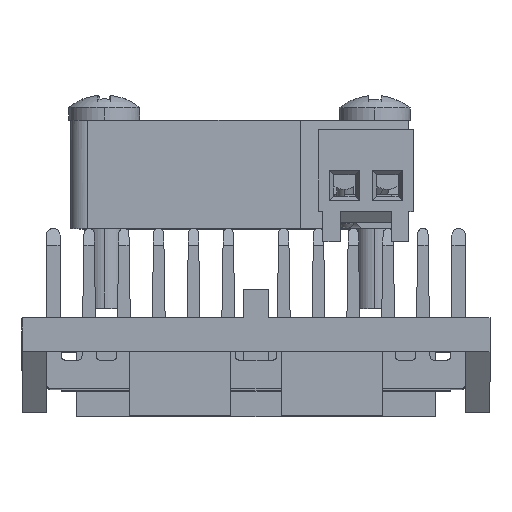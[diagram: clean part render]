
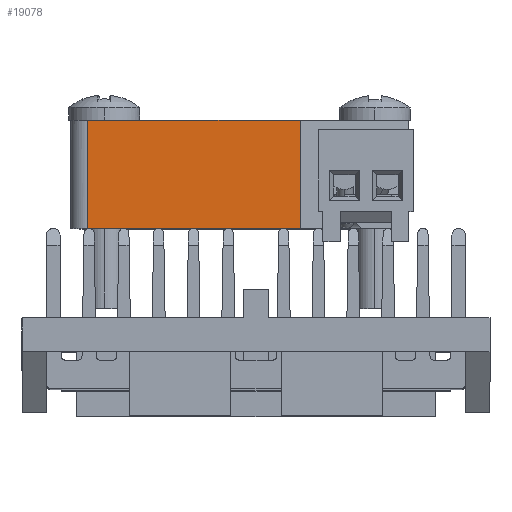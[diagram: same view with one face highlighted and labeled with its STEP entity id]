
A CAD part, top view. The second image highlights one B-rep face of the part: STEP entity #19078.
In plain terms, the highlighted planar face has unit normal (0, 0, 1).
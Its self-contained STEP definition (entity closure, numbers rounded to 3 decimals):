
#148 = CARTESIAN_POINT ( 'NONE',  ( 12.752, 12.356, 10.509 ) ) ;
#3006 = AXIS2_PLACEMENT_3D ( 'NONE', #148, #6590, #13047 ) ;
#3217 = PLANE ( 'NONE',  #3006 ) ;
#3529 = VECTOR ( 'NONE', #17069, 1000. ) ;
#3986 = LINE ( 'NONE', #12241, #11413 ) ;
#4545 = ORIENTED_EDGE ( 'NONE', *, *, #16602, .F. ) ;
#5529 = VERTEX_POINT ( 'NONE', #20722 ) ;
#5851 = EDGE_CURVE ( 'NONE', #20381, #5529, #7358, .T. ) ;
#6131 = DIRECTION ( 'NONE',  ( 0., 1., 0. ) ) ;
#6467 = DIRECTION ( 'NONE',  ( 0., -1., 0. ) ) ;
#6590 = DIRECTION ( 'NONE',  ( 0., 0., -1. ) ) ;
#7358 = LINE ( 'NONE', #15479, #3529 ) ;
#7363 = ORIENTED_EDGE ( 'NONE', *, *, #7796, .F. ) ;
#7796 = EDGE_CURVE ( 'NONE', #5529, #19532, #17107, .T. ) ;
#7947 = EDGE_CURVE ( 'NONE', #19532, #8699, #3986, .T. ) ;
#8699 = VERTEX_POINT ( 'NONE', #11378 ) ;
#10846 = CARTESIAN_POINT ( 'NONE',  ( -6.248, 12.256, 10.509 ) ) ;
#11378 = CARTESIAN_POINT ( 'NONE',  ( 6.352, 12.256, 10.509 ) ) ;
#11413 = VECTOR ( 'NONE', #15383, 1000. ) ;
#11694 = ORIENTED_EDGE ( 'NONE', *, *, #7947, .F. ) ;
#12241 = CARTESIAN_POINT ( 'NONE',  ( 12.752, 12.256, 10.509 ) ) ;
#12726 = ORIENTED_EDGE ( 'NONE', *, *, #5851, .F. ) ;
#12866 = EDGE_LOOP ( 'NONE', ( #11694, #7363, #12726, #4545 ) ) ;
#13047 = DIRECTION ( 'NONE',  ( 0., -1., 0. ) ) ;
#13136 = CARTESIAN_POINT ( 'NONE',  ( 6.352, 12.356, 10.509 ) ) ;
#13207 = CARTESIAN_POINT ( 'NONE',  ( 6.352, 5.856, 10.509 ) ) ;
#13443 = VECTOR ( 'NONE', #6131, 1000. ) ;
#15383 = DIRECTION ( 'NONE',  ( 1., 0., 0. ) ) ;
#15479 = CARTESIAN_POINT ( 'NONE',  ( 2.752, 5.856, 10.509 ) ) ;
#16602 = EDGE_CURVE ( 'NONE', #8699, #20381, #19590, .T. ) ;
#16898 = VECTOR ( 'NONE', #6467, 1000. ) ;
#17069 = DIRECTION ( 'NONE',  ( -1., 0., 0. ) ) ;
#17107 = LINE ( 'NONE', #19145, #13443 ) ;
#17582 = FACE_OUTER_BOUND ( 'NONE', #12866, .T. ) ;
#19078 = ADVANCED_FACE ( 'NONE', ( #17582 ), #3217, .F. ) ;
#19145 = CARTESIAN_POINT ( 'NONE',  ( -6.248, 12.356, 10.509 ) ) ;
#19532 = VERTEX_POINT ( 'NONE', #10846 ) ;
#19590 = LINE ( 'NONE', #13136, #16898 ) ;
#20381 = VERTEX_POINT ( 'NONE', #13207 ) ;
#20722 = CARTESIAN_POINT ( 'NONE',  ( -6.248, 5.856, 10.509 ) ) ;
